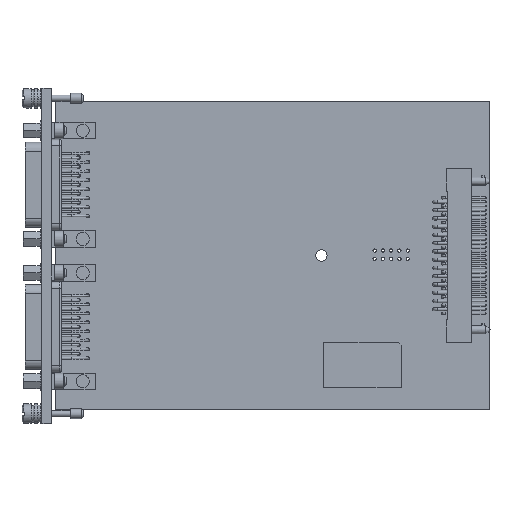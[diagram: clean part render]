
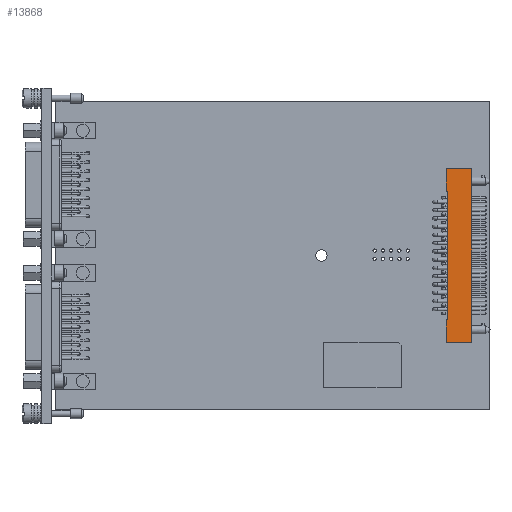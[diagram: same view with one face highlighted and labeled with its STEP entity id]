
A CAD part, top view. The second image highlights one B-rep face of the part: STEP entity #13868.
In plain terms, the highlighted planar face has unit normal (0, 0, 1).
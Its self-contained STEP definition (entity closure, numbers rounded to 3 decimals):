
#13868=ADVANCED_FACE('',(#28486),#28488,.F.);
#28486=FACE_BOUND('',#28487,.T.);
#28487=EDGE_LOOP('',(#38712,#38713,#38714,#38715,#38716,#38717,#38718,#38719));
#28488=PLANE('',#28489);
#28489=AXIS2_PLACEMENT_3D('',#28490,#28491,#28492);
#28490=CARTESIAN_POINT('',(120.1,20.625,6.363));
#28491=DIRECTION('',(0.,0.,-1.));
#28492=DIRECTION('',(-1.,0.,0.));
#38712=ORIENTED_EDGE('',*,*,#43345,.T.);
#38713=ORIENTED_EDGE('',*,*,#43388,.T.);
#38714=ORIENTED_EDGE('',*,*,#43386,.T.);
#38715=ORIENTED_EDGE('',*,*,#43384,.T.);
#38716=ORIENTED_EDGE('',*,*,#43382,.T.);
#38717=ORIENTED_EDGE('',*,*,#43351,.T.);
#38718=ORIENTED_EDGE('',*,*,#43349,.T.);
#38719=ORIENTED_EDGE('',*,*,#43347,.T.);
#43345=EDGE_CURVE('',#50287,#50285,#50288,.T.);
#43347=EDGE_CURVE('',#50290,#50287,#50291,.T.);
#43349=EDGE_CURVE('',#50293,#50290,#50294,.T.);
#43351=EDGE_CURVE('',#50296,#50293,#50297,.T.);
#43382=EDGE_CURVE('',#50357,#50296,#50358,.T.);
#43384=EDGE_CURVE('',#50360,#50357,#50361,.T.);
#43386=EDGE_CURVE('',#50363,#50360,#50364,.T.);
#43388=EDGE_CURVE('',#50285,#50363,#50366,.T.);
#50285=VERTEX_POINT('',#70418);
#50287=VERTEX_POINT('',#70422);
#50288=LINE('',#70423,#70424);
#50290=VERTEX_POINT('',#70429);
#50291=LINE('',#70430,#70431);
#50293=VERTEX_POINT('',#70436);
#50294=LINE('',#70437,#70438);
#50296=VERTEX_POINT('',#70443);
#50297=LINE('',#70444,#70445);
#50357=VERTEX_POINT('',#70595);
#50358=LINE('',#70596,#70597);
#50360=VERTEX_POINT('',#70602);
#50361=LINE('',#70603,#70604);
#50363=VERTEX_POINT('',#70609);
#50364=LINE('',#70610,#70611);
#50366=LINE('',#70616,#70617);
#70418=CARTESIAN_POINT('',(128.,20.625,6.363));
#70422=CARTESIAN_POINT('',(120.1,20.625,6.363));
#70423=CARTESIAN_POINT('',(120.1,20.625,6.363));
#70424=VECTOR('',#70425,1.);
#70425=DIRECTION('',(1.,0.,0.));
#70429=CARTESIAN_POINT('',(120.1,27.625,6.363));
#70430=CARTESIAN_POINT('',(120.1,27.625,6.363));
#70431=VECTOR('',#70432,1.);
#70432=DIRECTION('',(0.,-1.,0.));
#70436=CARTESIAN_POINT('',(120.4,27.625,6.363));
#70437=CARTESIAN_POINT('',(120.4,27.625,6.363));
#70438=VECTOR('',#70439,1.);
#70439=DIRECTION('',(-1.,0.,0.));
#70443=CARTESIAN_POINT('',(120.4,67.125,6.363));
#70444=CARTESIAN_POINT('',(120.4,67.125,6.363));
#70445=VECTOR('',#70446,1.);
#70446=DIRECTION('',(0.,-1.,0.));
#70595=CARTESIAN_POINT('',(120.1,67.125,6.363));
#70596=CARTESIAN_POINT('',(120.1,67.125,6.363));
#70597=VECTOR('',#70598,1.);
#70598=DIRECTION('',(1.,0.,0.));
#70602=CARTESIAN_POINT('',(120.1,74.125,6.363));
#70603=CARTESIAN_POINT('',(120.1,74.125,6.363));
#70604=VECTOR('',#70605,1.);
#70605=DIRECTION('',(0.,-1.,0.));
#70609=CARTESIAN_POINT('',(128.,74.125,6.363));
#70610=CARTESIAN_POINT('',(128.,74.125,6.363));
#70611=VECTOR('',#70612,1.);
#70612=DIRECTION('',(-1.,0.,0.));
#70616=CARTESIAN_POINT('',(128.,20.625,6.363));
#70617=VECTOR('',#70618,1.);
#70618=DIRECTION('',(0.,1.,0.));
